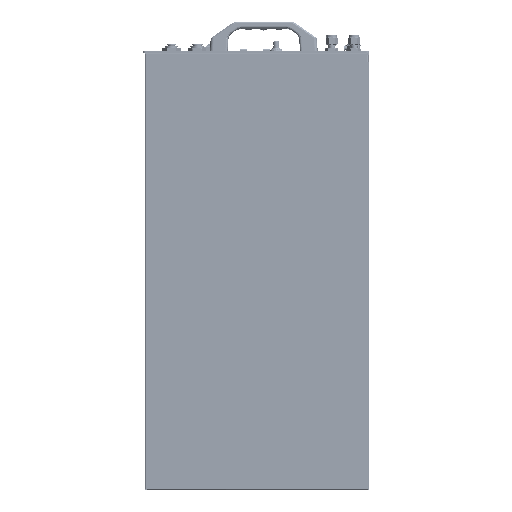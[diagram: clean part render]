
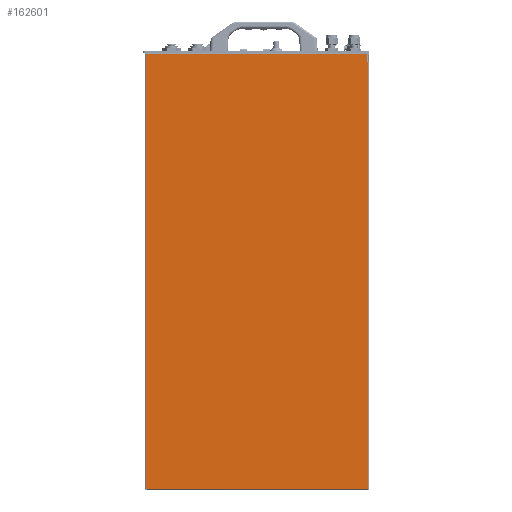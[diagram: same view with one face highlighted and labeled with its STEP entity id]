
A CAD part, left-side view. The second image highlights one B-rep face of the part: STEP entity #162601.
In plain terms, the highlighted planar face has unit normal (-1, 0, 0) as drawn and (1, 0, 0) by its records, which use the part's own axes.
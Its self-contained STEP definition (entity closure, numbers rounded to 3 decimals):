
#13579=PLANE('',#176039);
#22305=FACE_OUTER_BOUND('',#32041,.T.);
#32041=EDGE_LOOP('',(#151569,#151570,#151571,#151572,#151573,#151574));
#47077=LINE('',#380031,#62138);
#47083=LINE('',#380058,#62144);
#47084=LINE('',#380060,#62145);
#47085=LINE('',#380062,#62146);
#47086=LINE('',#380064,#62147);
#47087=LINE('',#380065,#62148);
#62138=VECTOR('',#216588,10.);
#62144=VECTOR('',#216614,10.);
#62145=VECTOR('',#216615,10.);
#62146=VECTOR('',#216616,10.);
#62147=VECTOR('',#216617,10.);
#62148=VECTOR('',#216618,10.);
#81791=VERTEX_POINT('',#380024);
#81792=VERTEX_POINT('',#380028);
#81796=VERTEX_POINT('',#380057);
#81797=VERTEX_POINT('',#380059);
#81798=VERTEX_POINT('',#380061);
#81799=VERTEX_POINT('',#380063);
#105058=EDGE_CURVE('',#81792,#81791,#47077,.T.);
#105068=EDGE_CURVE('',#81791,#81796,#47083,.T.);
#105069=EDGE_CURVE('',#81796,#81797,#47084,.T.);
#105070=EDGE_CURVE('',#81797,#81798,#47085,.T.);
#105071=EDGE_CURVE('',#81798,#81799,#47086,.T.);
#105072=EDGE_CURVE('',#81799,#81792,#47087,.T.);
#151569=ORIENTED_EDGE('',*,*,#105058,.T.);
#151570=ORIENTED_EDGE('',*,*,#105068,.T.);
#151571=ORIENTED_EDGE('',*,*,#105069,.T.);
#151572=ORIENTED_EDGE('',*,*,#105070,.T.);
#151573=ORIENTED_EDGE('',*,*,#105071,.T.);
#151574=ORIENTED_EDGE('',*,*,#105072,.T.);
#162601=ADVANCED_FACE('',(#22305),#13579,.F.);
#176039=AXIS2_PLACEMENT_3D('',#380056,#216612,#216613);
#216588=DIRECTION('',(0.,0.,-1.));
#216612=DIRECTION('center_axis',(-1.,0.,0.));
#216613=DIRECTION('ref_axis',(0.,0.,
-1.));
#216614=DIRECTION('',(0.,1.,0.));
#216615=DIRECTION('',(0.,0.,-1.));
#216616=DIRECTION('',(0.,1.,0.));
#216617=DIRECTION('',(0.,0.,1.));
#216618=DIRECTION('',(0.,-1.,0.));
#380024=CARTESIAN_POINT('',(219.,-300.75,11.));
#380028=CARTESIAN_POINT('',(219.,-300.75,589.));
#380031=CARTESIAN_POINT('',(219.,-300.75,442.));
#380056=CARTESIAN_POINT('Origin',(219.,218.262,295.));
#380057=CARTESIAN_POINT('',(219.,-300.,11.));
#380058=CARTESIAN_POINT('',(219.,-41.869,11.));
#380059=CARTESIAN_POINT('',(219.,-300.,1.25));
#380060=CARTESIAN_POINT('',(219.,-300.,150.079));
#380061=CARTESIAN_POINT('',(219.,-1.,1.25));
#380062=CARTESIAN_POINT('',(219.,-41.869,1.25));
#380063=CARTESIAN_POINT('',(219.,-1.,589.));
#380064=CARTESIAN_POINT('',(219.,-1.,295.));
#380065=CARTESIAN_POINT('',(219.,108.631,589.));
